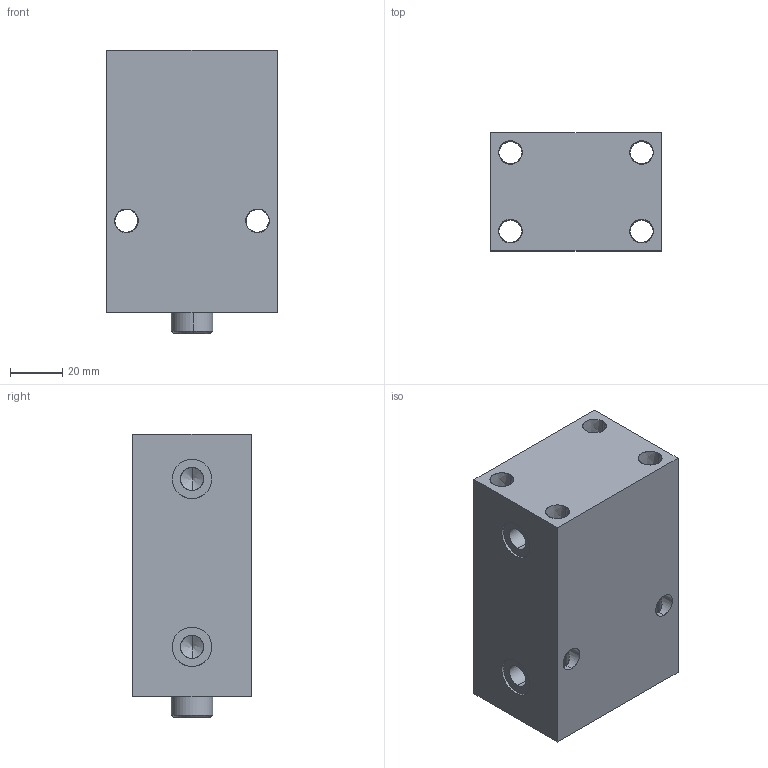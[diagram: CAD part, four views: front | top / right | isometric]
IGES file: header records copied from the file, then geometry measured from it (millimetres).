
Start section: SolidWorks IGES file using analytic representation for surfaces
Global section: file name: D:\karuppas\Clasp\3D model\Block cylinder B01C-Female thread\B01C-150F\block cylinder B01C-150F.IGS; native system: SolidWorks 2017; preprocessor: SolidWorks 2017; author: pc; date: 220709.235707; units: millimetre
Bounding box: 65 x 45 x 108 mm (x, y, z)
Surface area: 46738.8 mm2 (no closed solid volume)
Topology: 0 solids, 0 shells, 230 faces, 3915 edges, 3909 vertices
Faces by surface type: bspline 178, revolution 52
